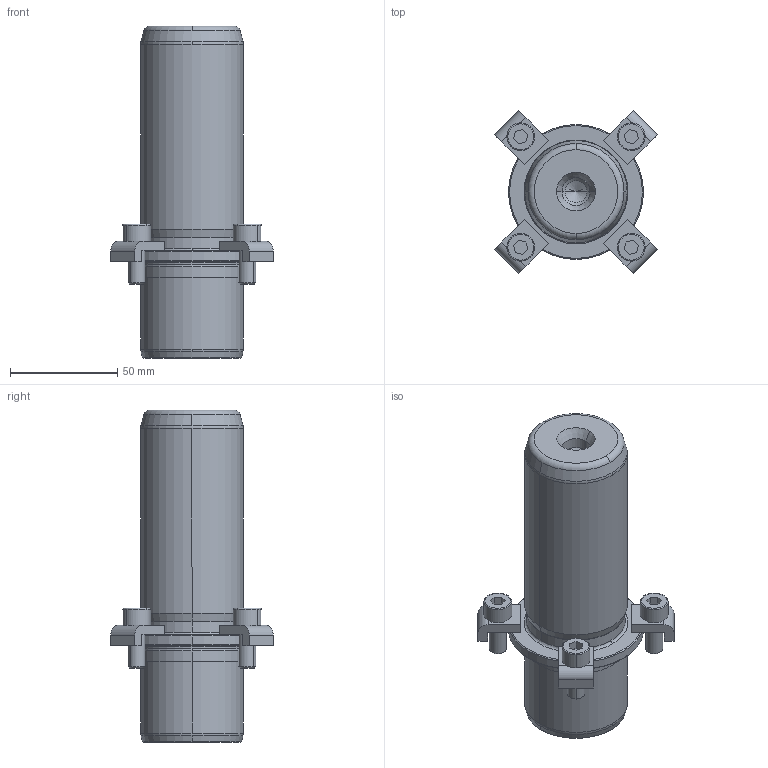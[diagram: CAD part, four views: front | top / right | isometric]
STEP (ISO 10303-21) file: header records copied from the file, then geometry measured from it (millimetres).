
FILE_DESCRIPTION((''),'2;1');
FILE_NAME('P21_048_110.stp','2008-12-23T13:36:32',(''),(''),'Mechanical Desktop 2009','Mechanical Desktop 2009',', , ');
FILE_SCHEMA(('CONFIG_CONTROL_DESIGN'));
Length unit declared in the file: millimetre
Products named in the file (2): Product; blmdl1
Assembly tree (1 placements, depth 2):
  Product
    blmdl1
Bounding box: 76.01 x 76.01 x 155 mm (x, y, z)
Volume: 289553.3 mm3; surface area: 40789.2 mm2
Topology: 9 solids, 9 shells, 195 faces, 477 edges, 309 vertices
Faces by surface type: plane 77, cylinder 52, cone 34, torus 16, bspline 16
Entity records: 6547 total; most frequent: CARTESIAN_POINT 1683, DIRECTION 1078, ORIENTED_EDGE 946, EDGE_CURVE 473, AXIS2_PLACEMENT_3D 424, VERTEX_POINT 309, CIRCLE 243, VECTOR 230
